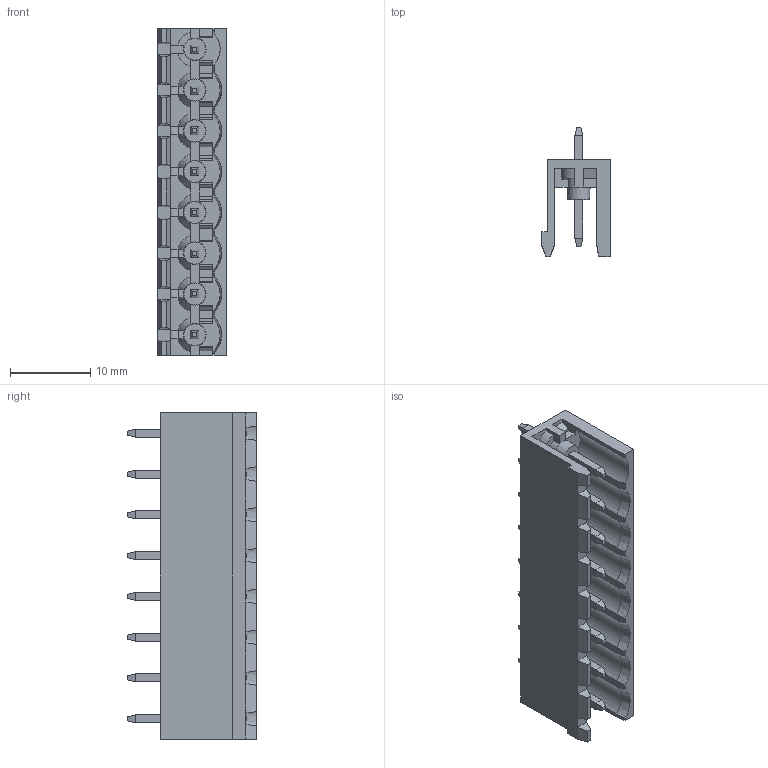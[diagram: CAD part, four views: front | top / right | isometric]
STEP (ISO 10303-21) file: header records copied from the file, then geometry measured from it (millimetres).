
FILE_DESCRIPTION (( 'STEP AP203' ), '1' );
FILE_NAME ('BR8MC1-08.STEP', '2020-03-18T02:52:36', ( '' ), ( '' ), 'SwSTEP 2.0', 'SolidWorks 2019', '' );
FILE_SCHEMA (( 'CONFIG_CONTROL_DESIGN' ));
Length unit declared in the file: millimetre
Products named in the file (1): BR8MC1-08
Bounding box: 8.5 x 16.03 x 40.64 mm (x, y, z)
Volume: 1541.3 mm3; surface area: 3451.2 mm2
Topology: 1 solids, 1 shells, 683 faces, 1782 edges, 1101 vertices
Faces by surface type: plane 589, cylinder 41, cone 37, sphere 16
Entity records: 20348 total; most frequent: CARTESIAN_POINT 3860, ORIENTED_EDGE 3500, DIRECTION 3205, EDGE_CURVE 1750, VECTOR 1501, LINE 1501, VERTEX_POINT 1085, AXIS2_PLACEMENT_3D 852
